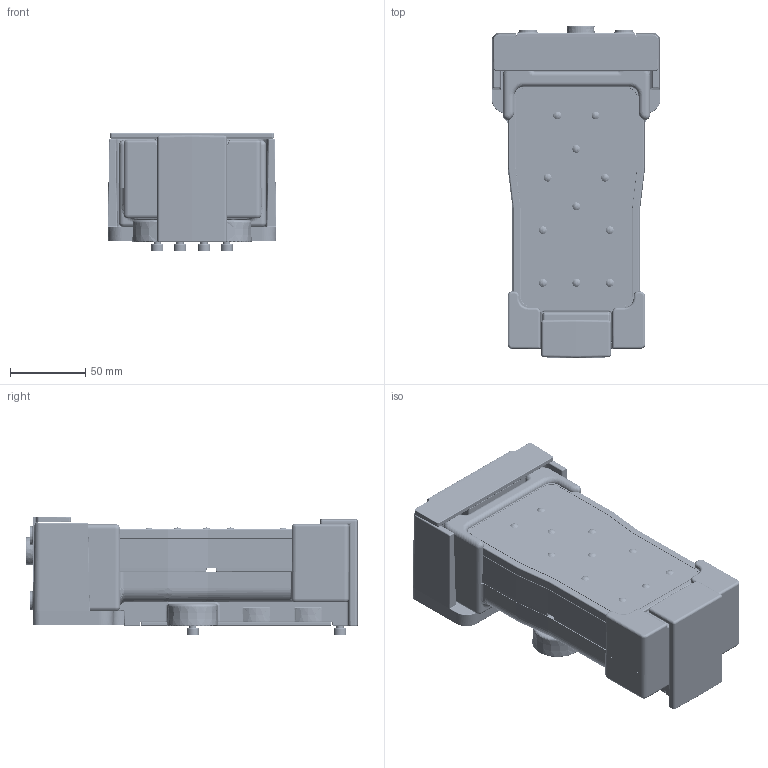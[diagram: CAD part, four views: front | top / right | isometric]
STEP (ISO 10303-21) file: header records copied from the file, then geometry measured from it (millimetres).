
FILE_DESCRIPTION (( 'STEP AP214' ), '1' );
FILE_NAME ('7015.STEP', '2013-10-07T17:42:37', ( 'eb' ), ( '' ), 'SwSTEP 2.0', 'SolidWorks 2013', '' );
FILE_SCHEMA (( 'AUTOMOTIVE_DESIGN' ));
Length unit declared in the file: inch
Products named in the file (1): 7015
Bounding box: 111.92 x 220.34 x 78.95 mm (x, y, z)
Volume: 732454.5 mm3; surface area: 412434.7 mm2
Topology: 93 solids, 96 shells, 9546 faces, 22988 edges, 13481 vertices
Faces by surface type: plane 3430, cylinder 3003, torus 1172, bspline 1158, cone 410, sphere 373
Full cylindrical faces by diameter (mm): 0.886 x13
Entity records: 323736 total; most frequent: CARTESIAN_POINT 110153, ORIENTED_EDGE 45072, DIRECTION 43731, EDGE_CURVE 22536, AXIS2_PLACEMENT_3D 16369, VERTEX_POINT 13429, VECTOR 10993, LINE 10993
